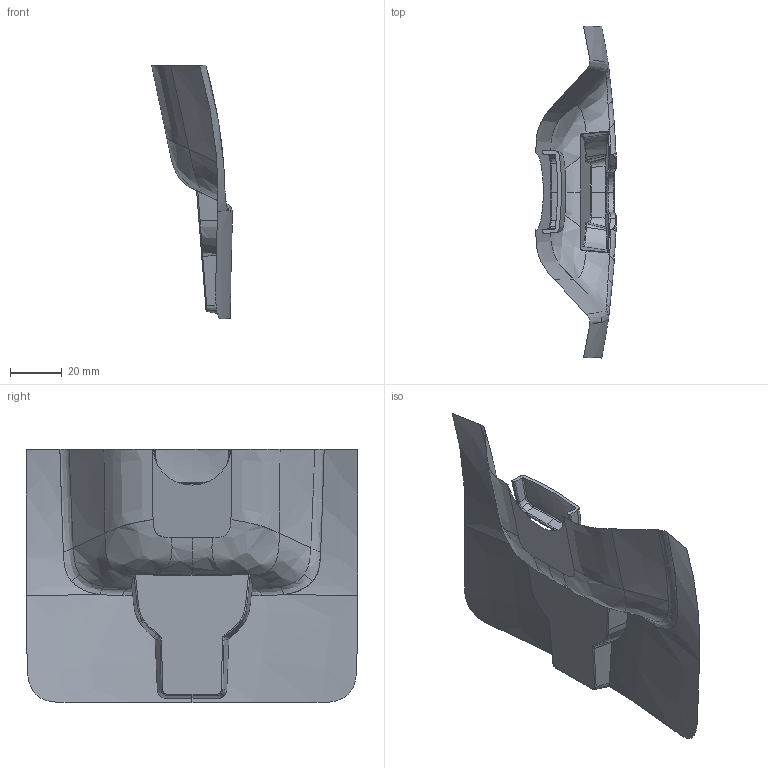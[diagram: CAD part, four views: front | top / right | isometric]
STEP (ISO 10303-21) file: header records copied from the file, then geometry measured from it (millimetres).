
FILE_DESCRIPTION(('CATIA V5 STEP Exchange','CAx-IF Rec.Pracs.--- Composite Materials ---3.4---2017-06-13'),'2;1');
FILE_NAME('C:\Users\gmarsh66\Desktop\misc me\ford\fits accessories\misc\FITS_DIY_CAD_console_revc.stp','2022-01-20T14:30:33+00:00',('none'),('none'),'CATIA Version 5-6 Release 2020 SP3 HF29','CATIA V5 STEP AP203 v2','none');
FILE_SCHEMA(('CONFIG_CONTROL_DESIGN'));
Length unit declared in the file: millimetre
Products named in the file (1): FITS_DIY_CAD
Bounding box: 31.08 x 128.04 x 97.7 mm (x, y, z)
Volume: 1029.7 mm3; surface area: 17467.7 mm2
Topology: 1 solids, 11 shells, 252 faces, 722 edges, 476 vertices
Faces by surface type: bspline 197, plane 18, cylinder 16, torus 11, cone 8, extrusion 2
Entity records: 19117 total; most frequent: CARTESIAN_POINT 14542, ORIENTED_EDGE 1350, EDGE_CURVE 722, B_SPLINE_CURVE_WITH_KNOTS 627, VERTEX_POINT 468, ADVANCED_FACE 252, EDGE_LOOP 252, FACE_OUTER_BOUND 252
